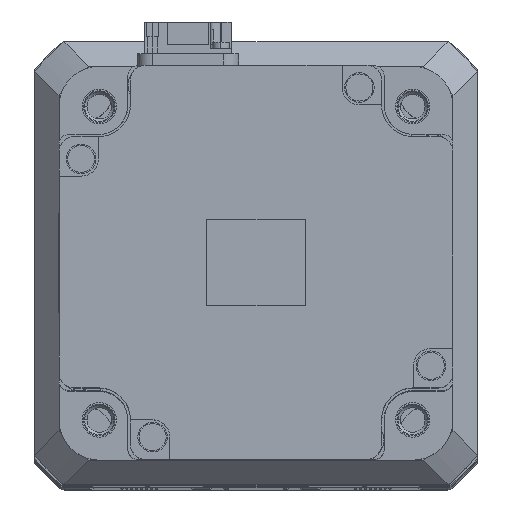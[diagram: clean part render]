
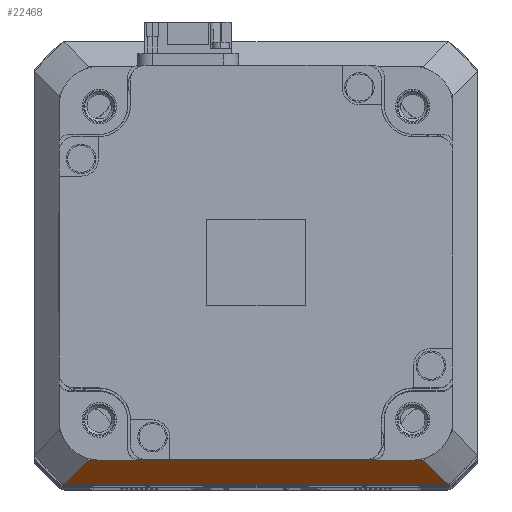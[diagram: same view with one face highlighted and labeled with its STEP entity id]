
A CAD part, top view. The second image highlights one B-rep face of the part: STEP entity #22468.
In plain terms, the highlighted planar face has unit normal (0, -0.707, 0.707).
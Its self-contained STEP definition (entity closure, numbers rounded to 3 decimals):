
#933 = VERTEX_POINT ( 'NONE', #47963 ) ;
#2750 = EDGE_CURVE ( 'NONE', #933, #41150, #23697, .T. ) ;
#3505 = VERTEX_POINT ( 'NONE', #13978 ) ;
#5143 = DIRECTION ( 'NONE',  ( 0., 0.707, -0.707 ) ) ;
#8023 = EDGE_LOOP ( 'NONE', ( #36358, #42446, #27447, #29750 ) ) ;
#8591 = CARTESIAN_POINT ( 'NONE',  ( -39.003, -45., 94. ) ) ;
#9067 = VECTOR ( 'NONE', #45975, 1000. ) ;
#11897 = AXIS2_PLACEMENT_3D ( 'NONE', #28810, #5143, #32810 ) ;
#12510 = CARTESIAN_POINT ( 'NONE',  ( 34.004, -40., 99. ) ) ;
#13978 = CARTESIAN_POINT ( 'NONE',  ( -34.004, -40., 99. ) ) ;
#16552 = CARTESIAN_POINT ( 'NONE',  ( -34.004, -40., 99. ) ) ;
#18359 = CARTESIAN_POINT ( 'NONE',  ( 0., -40., 99. ) ) ;
#20437 = CARTESIAN_POINT ( 'NONE',  ( 37.337, -43.333, 95.667 ) ) ;
#21094 = B_SPLINE_CURVE_WITH_KNOTS ( 'NONE', 3,
 ( #8591, #32293, #40197, #16552 ),
 .UNSPECIFIED., .F., .F.,
 ( 4, 4 ),
 ( 0., 0.009 ),
 .UNSPECIFIED. ) ;
#22468 = ADVANCED_FACE ( 'NONE', ( #45460 ), #24816, .F. ) ;
#22843 = DIRECTION ( 'NONE',  ( -1., 0., 0. ) ) ;
#23697 = B_SPLINE_CURVE_WITH_KNOTS ( 'NONE', 3,
 ( #12510, #36190, #20437, #48068 ),
 .UNSPECIFIED., .F., .F.,
 ( 4, 4 ),
 ( 0., 0.009 ),
 .UNSPECIFIED. ) ;
#24816 = PLANE ( 'NONE',  #11897 ) ;
#26278 = CARTESIAN_POINT ( 'NONE',  ( 39.003, -45., 94. ) ) ;
#27447 = ORIENTED_EDGE ( 'NONE', *, *, #35252, .F. ) ;
#28810 = CARTESIAN_POINT ( 'NONE',  ( 0., -42.5, 96.5 ) ) ;
#29750 = ORIENTED_EDGE ( 'NONE', *, *, #42413, .F. ) ;
#31996 = VERTEX_POINT ( 'NONE', #48946 ) ;
#32293 = CARTESIAN_POINT ( 'NONE',  ( -37.337, -43.333, 95.667 ) ) ;
#32810 = DIRECTION ( 'NONE',  ( 0., -0.707, -0.707 ) ) ;
#35252 = EDGE_CURVE ( 'NONE', #31996, #3505, #21094, .T. ) ;
#36190 = CARTESIAN_POINT ( 'NONE',  ( 35.671, -41.666, 97.334 ) ) ;
#36358 = ORIENTED_EDGE ( 'NONE', *, *, #2750, .F. ) ;
#37593 = LINE ( 'NONE', #46679, #46849 ) ;
#40197 = CARTESIAN_POINT ( 'NONE',  ( -35.671, -41.666, 97.334 ) ) ;
#41150 = VERTEX_POINT ( 'NONE', #26278 ) ;
#42413 = EDGE_CURVE ( 'NONE', #41150, #31996, #37593, .T. ) ;
#42446 = ORIENTED_EDGE ( 'NONE', *, *, #43791, .F. ) ;
#43085 = LINE ( 'NONE', #18359, #9067 ) ;
#43791 = EDGE_CURVE ( 'NONE', #3505, #933, #43085, .T. ) ;
#45460 = FACE_OUTER_BOUND ( 'NONE', #8023, .T. ) ;
#45975 = DIRECTION ( 'NONE',  ( 1., 0., 0. ) ) ;
#46679 = CARTESIAN_POINT ( 'NONE',  ( -24., -45., 94. ) ) ;
#46849 = VECTOR ( 'NONE', #22843, 1000. ) ;
#47963 = CARTESIAN_POINT ( 'NONE',  ( 34.004, -40., 99. ) ) ;
#48068 = CARTESIAN_POINT ( 'NONE',  ( 39.003, -45., 94. ) ) ;
#48946 = CARTESIAN_POINT ( 'NONE',  ( -39.003, -45., 94. ) ) ;
